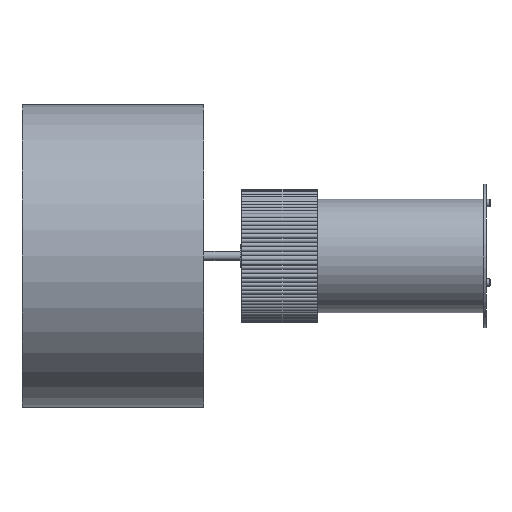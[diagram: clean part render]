
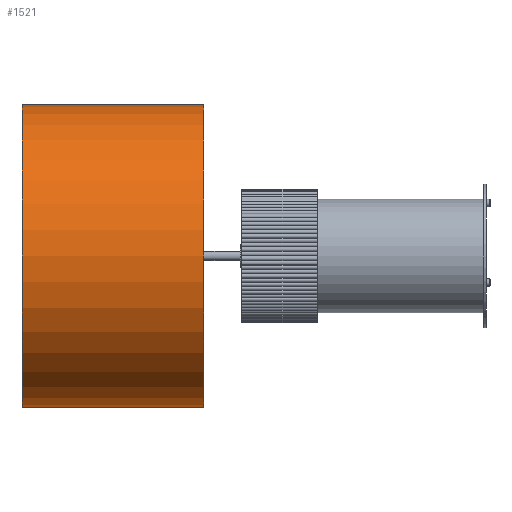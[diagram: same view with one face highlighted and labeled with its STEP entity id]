
A CAD part, left-side view. The second image highlights one B-rep face of the part: STEP entity #1521.
In plain terms, the highlighted cylindrical face has radius 200 mm (diameter 400 mm), a partial arc.
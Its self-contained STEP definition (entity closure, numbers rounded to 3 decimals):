
#23 = CIRCLE ( 'NONE', #5402, 200. ) ;
#262 = ORIENTED_EDGE ( 'NONE', *, *, #347, .T. ) ;
#347 = EDGE_CURVE ( 'NONE', #1027, #2394, #3445, .T. ) ;
#419 = CARTESIAN_POINT ( 'NONE',  ( 0., 390., -200. ) ) ;
#551 = ORIENTED_EDGE ( 'NONE', *, *, #2462, .F. ) ;
#618 = VERTEX_POINT ( 'NONE', #5508 ) ;
#996 = CARTESIAN_POINT ( 'NONE',  ( 0., 390., 200. ) ) ;
#1027 = VERTEX_POINT ( 'NONE', #419 ) ;
#1055 = CARTESIAN_POINT ( 'NONE',  ( 0., 390., 0. ) ) ;
#1097 = CYLINDRICAL_SURFACE ( 'NONE', #4263, 200. ) ;
#1196 = VERTEX_POINT ( 'NONE', #996 ) ;
#1521 = ADVANCED_FACE ( 'NONE', ( #1532 ), #1097, .T. ) ;
#1532 = FACE_OUTER_BOUND ( 'NONE', #3753, .T. ) ;
#1700 = EDGE_CURVE ( 'NONE', #2394, #618, #23, .T. ) ;
#1752 = CARTESIAN_POINT ( 'NONE',  ( 0., 390., 200. ) ) ;
#1868 = CARTESIAN_POINT ( 'NONE',  ( 0., 390., -200. ) ) ;
#2155 = DIRECTION ( 'NONE',  ( 0., 0., 1. ) ) ;
#2394 = VERTEX_POINT ( 'NONE', #2991 ) ;
#2462 = EDGE_CURVE ( 'NONE', #1027, #1196, #2542, .T. ) ;
#2542 = CIRCLE ( 'NONE', #3528, 200. ) ;
#2590 = ORIENTED_EDGE ( 'NONE', *, *, #1700, .T. ) ;
#2991 = CARTESIAN_POINT ( 'NONE',  ( 0., 150., -200. ) ) ;
#3073 = CARTESIAN_POINT ( 'NONE',  ( 0., 390., 0. ) ) ;
#3279 = ORIENTED_EDGE ( 'NONE', *, *, #5242, .F. ) ;
#3445 = LINE ( 'NONE', #1868, #4363 ) ;
#3528 = AXIS2_PLACEMENT_3D ( 'NONE', #3073, #3555, #4837 ) ;
#3555 = DIRECTION ( 'NONE',  ( 0., 1., 0. ) ) ;
#3753 = EDGE_LOOP ( 'NONE', ( #3279, #551, #262, #2590 ) ) ;
#4249 = DIRECTION ( 'NONE',  ( 0., 0., -1. ) ) ;
#4263 = AXIS2_PLACEMENT_3D ( 'NONE', #1055, #5599, #4249 ) ;
#4363 = VECTOR ( 'NONE', #4612, 1000. ) ;
#4555 = DIRECTION ( 'NONE',  ( 0., -1., 0. ) ) ;
#4612 = DIRECTION ( 'NONE',  ( 0., -1., 0. ) ) ;
#4700 = VECTOR ( 'NONE', #4555, 1000. ) ;
#4837 = DIRECTION ( 'NONE',  ( 0., 0., 1. ) ) ;
#4966 = LINE ( 'NONE', #1752, #4700 ) ;
#5242 = EDGE_CURVE ( 'NONE', #1196, #618, #4966, .T. ) ;
#5402 = AXIS2_PLACEMENT_3D ( 'NONE', #5799, #5815, #2155 ) ;
#5508 = CARTESIAN_POINT ( 'NONE',  ( 0., 150., 200. ) ) ;
#5599 = DIRECTION ( 'NONE',  ( 0., -1., 0. ) ) ;
#5799 = CARTESIAN_POINT ( 'NONE',  ( 0., 150., 0. ) ) ;
#5815 = DIRECTION ( 'NONE',  ( 0., 1., 0. ) ) ;
